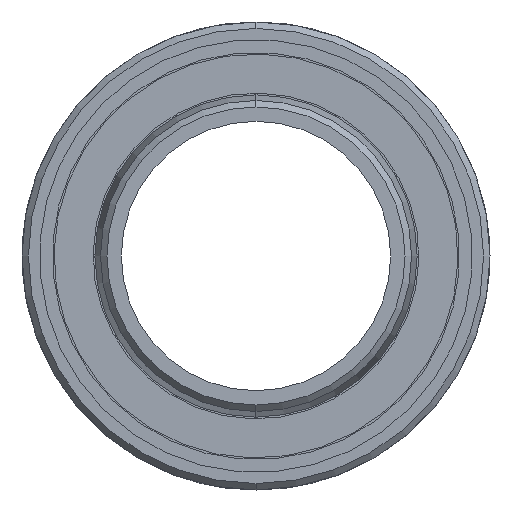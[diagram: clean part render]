
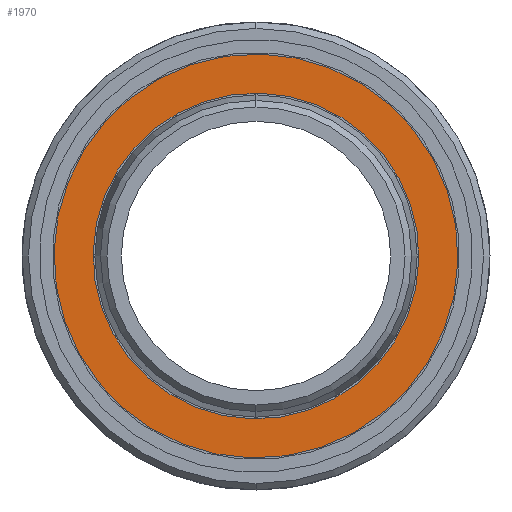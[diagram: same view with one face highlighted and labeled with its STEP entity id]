
A CAD part, left-side view. The second image highlights one B-rep face of the part: STEP entity #1970.
In plain terms, the highlighted planar face has unit normal (-1, 0, 0).
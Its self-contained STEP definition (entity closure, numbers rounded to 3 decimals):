
#191 = AXIS2_PLACEMENT_3D ( 'NONE', #873, #874, #875 ) ;
#261 = AXIS2_PLACEMENT_3D ( 'NONE', #722, #723, #724 ) ;
#263 = AXIS2_PLACEMENT_3D ( 'NONE', #732, #733, #734 ) ;
#266 = AXIS2_PLACEMENT_3D ( 'NONE', #743, #744, #745 ) ;
#267 = AXIS2_PLACEMENT_3D ( 'NONE', #747, #748, #749 ) ;
#404 = CIRCLE ( 'NONE', #261, 25.4 ) ;
#408 = CIRCLE ( 'NONE', #263, 31.5 ) ;
#415 = CIRCLE ( 'NONE', #266, 31.5 ) ;
#416 = CIRCLE ( 'NONE', #267, 25.4 ) ;
#472 = FACE_OUTER_BOUND ( 'NONE', #2084, .T. ) ;
#476 = FACE_BOUND ( 'NONE', #2075, .T. ) ;
#722 = CARTESIAN_POINT ( 'NONE',  ( -510., 0., 0. ) ) ;
#723 = DIRECTION ( 'NONE',  ( 1., 0., 0. ) ) ;
#724 = DIRECTION ( 'NONE',  ( 0., 0.199, -0.98 ) ) ;
#732 = CARTESIAN_POINT ( 'NONE',  ( -510., 0., 0. ) ) ;
#733 = DIRECTION ( 'NONE',  ( 1., 0., 0. ) ) ;
#734 = DIRECTION ( 'NONE',  ( 0., 0.199, -0.98 ) ) ;
#743 = CARTESIAN_POINT ( 'NONE',  ( -510., 0., 0. ) ) ;
#744 = DIRECTION ( 'NONE',  ( 1., 0., 0. ) ) ;
#745 = DIRECTION ( 'NONE',  ( 0., 0.199, -0.98 ) ) ;
#747 = CARTESIAN_POINT ( 'NONE',  ( -510., 0., 0. ) ) ;
#748 = DIRECTION ( 'NONE',  ( 1., 0., 0. ) ) ;
#749 = DIRECTION ( 'NONE',  ( 0., 0.199, -0.98 ) ) ;
#866 = PLANE ( 'NONE',  #191 ) ;
#873 = CARTESIAN_POINT ( 'NONE',  ( -510., 0., 0. ) ) ;
#874 = DIRECTION ( 'NONE',  ( 1., 0., 0. ) ) ;
#875 = DIRECTION ( 'NONE',  ( 0., 0.199, -0.98 ) ) ;
#1657 = CARTESIAN_POINT ( 'NONE',  ( -510., -5.043, 24.894 ) ) ;
#1658 = CARTESIAN_POINT ( 'NONE',  ( -510., 5.043, -24.894 ) ) ;
#1660 = CARTESIAN_POINT ( 'NONE',  ( -510., 6.254, -30.873 ) ) ;
#1661 = CARTESIAN_POINT ( 'NONE',  ( -510., -6.254, 30.873 ) ) ;
#1919 = EDGE_CURVE ( 'NONE', #2233, #2234, #404, .T. ) ;
#1923 = EDGE_CURVE ( 'NONE', #2236, #2237, #408, .T. ) ;
#1927 = EDGE_CURVE ( 'NONE', #2237, #2236, #415, .T. ) ;
#1928 = EDGE_CURVE ( 'NONE', #2234, #2233, #416, .T. ) ;
#1970 = ADVANCED_FACE ( 'NONE', ( #472, #476 ), #866, .F. ) ;
#2075 = EDGE_LOOP ( 'NONE', ( #2343, #2344 ) ) ;
#2084 = EDGE_LOOP ( 'NONE', ( #2341, #2342 ) ) ;
#2233 = VERTEX_POINT ( 'NONE', #1657 ) ;
#2234 = VERTEX_POINT ( 'NONE', #1658 ) ;
#2236 = VERTEX_POINT ( 'NONE', #1660 ) ;
#2237 = VERTEX_POINT ( 'NONE', #1661 ) ;
#2341 = ORIENTED_EDGE ( 'NONE', *, *, #1927, .F. ) ;
#2342 = ORIENTED_EDGE ( 'NONE', *, *, #1923, .F. ) ;
#2343 = ORIENTED_EDGE ( 'NONE', *, *, #1919, .T. ) ;
#2344 = ORIENTED_EDGE ( 'NONE', *, *, #1928, .T. ) ;
